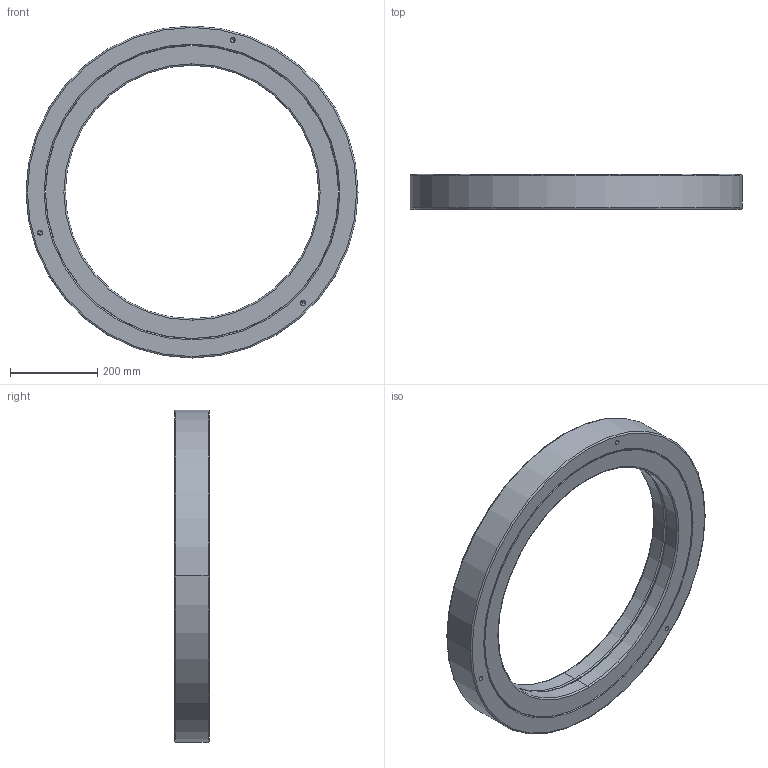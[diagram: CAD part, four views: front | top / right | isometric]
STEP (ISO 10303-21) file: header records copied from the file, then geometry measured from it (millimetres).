
FILE_DESCRIPTION((''),'2;1');
FILE_NAME('XR820060','2017-01-12T',('Administrator'),(''),'PRO/ENGINEER BY PARAMETRIC TECHNOLOGY CORPORATION, 2010180','PRO/ENGINEER BY PARAMETRIC TECHNOLOGY CORPORATION, 2010180','');
FILE_SCHEMA(('AUTOMOTIVE_DESIGN_CC2 { 1 2 10303 214 -1 1 5 2 }'));
Length unit declared in the file: millimetre
Products named in the file (1): XR820060
Bounding box: 760 x 80 x 760 mm (x, y, z)
Volume: 12596792 mm3; surface area: 1212373.1 mm2
Topology: 3 solids, 12 shells, 111 faces, 1247 edges, 1156 vertices
Faces by surface type: cylinder 50, cone 30, plane 17, torus 14
Entity records: 12384 total; most frequent: DIRECTION 1632, CARTESIAN_POINT 1505, VECTOR 1068, LINE 1068, PRESENTATION_STYLE_ASSIGNMENT 1030, STYLED_ITEM 1030, CURVE_STYLE 990, TRIMMED_CURVE 989
